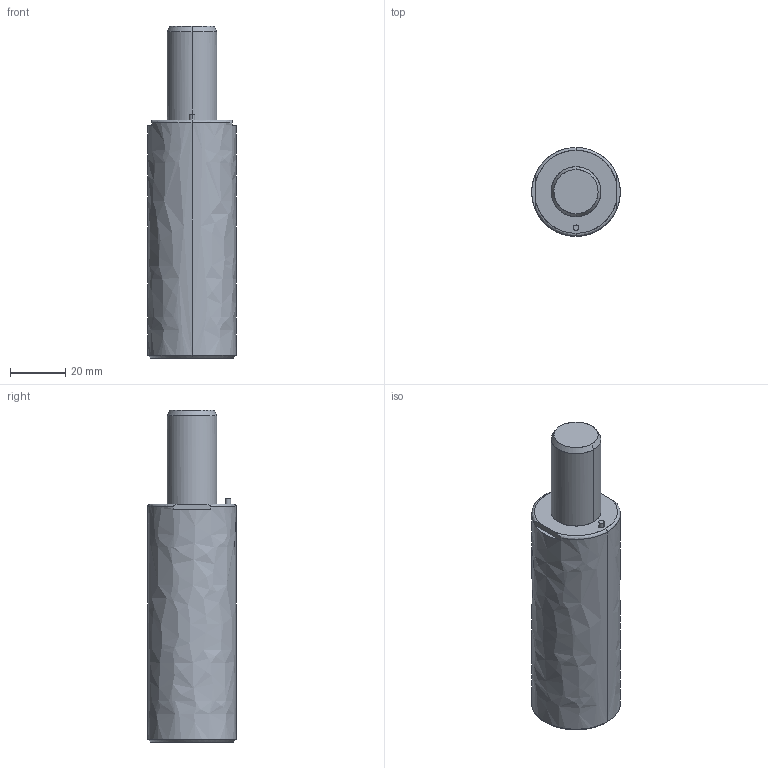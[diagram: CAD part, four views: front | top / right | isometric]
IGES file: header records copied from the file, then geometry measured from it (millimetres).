
Global section: file name: E:\UnigraphicsGraphicData\MISUMI_PRESS-PARTS\IGES\3d_gsx32-32_03959_r00.igs; native system: NX V5.0; preprocessor: UGS NX IGES V5.0; author: MISUMI; date: 20110105.160822; units: millimetre
Bounding box: 32 x 32 x 120 mm (x, y, z)
Surface area: 12931.9 mm2 (no closed solid volume)
Topology: 0 solids, 0 shells, 45 faces, 308 edges, 304 vertices
Faces by surface type: bspline 45
